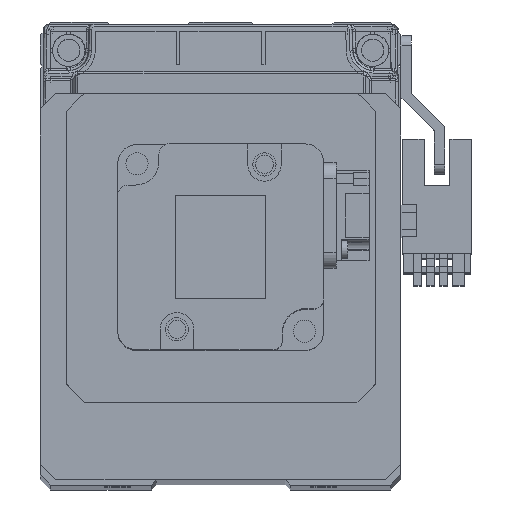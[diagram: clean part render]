
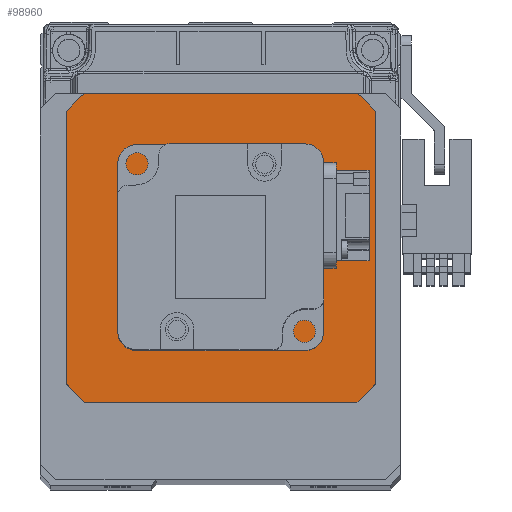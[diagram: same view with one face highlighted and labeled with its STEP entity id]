
A CAD part, top view. The second image highlights one B-rep face of the part: STEP entity #98960.
In plain terms, the highlighted planar face has unit normal (0, 0, 1) as drawn and (0, 0, -1) by its records, which use the part's own axes.
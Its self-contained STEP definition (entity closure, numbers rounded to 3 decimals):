
#90690=CARTESIAN_POINT('',(15.,0.,0.5));
#90700=VERTEX_POINT('',#90690);
#90730=CARTESIAN_POINT('',(0.,0.,0.5));
#90740=DIRECTION('',(0.,0.,-1.));
#90750=DIRECTION('',(-1.,0.,0.));
#90760=AXIS2_PLACEMENT_3D('',#90730,#90740,#90750);
#90770=CIRCLE('',#90760,15.);
#90780=CARTESIAN_POINT('',(-15.,0.,0.5));
#90790=VERTEX_POINT('',#90780);
#90800=EDGE_CURVE('',#90790,#90700,#90770,.T.);
#92430=CARTESIAN_POINT('',(-26.458,30.,0.5));
#92440=VERTEX_POINT('',#92430);
#92470=CARTESIAN_POINT('',(-30.,30.,0.5));
#92480=DIRECTION('',(-1.,-0.,-0.));
#92490=VECTOR('',#92480,1000.);
#92500=LINE('',#92470,#92490);
#92510=CARTESIAN_POINT('',(26.458,30.,0.5));
#92520=VERTEX_POINT('',#92510);
#92530=EDGE_CURVE('',#92520,#92440,#92500,.T.);
#94070=CARTESIAN_POINT('',(30.,26.458,0.5));
#94080=VERTEX_POINT('',#94070);
#94110=CARTESIAN_POINT('',(30.,30.,0.5));
#94120=DIRECTION('',(-0.,1.,-0.));
#94130=VECTOR('',#94120,1000.);
#94140=LINE('',#94110,#94130);
#94150=CARTESIAN_POINT('',(30.,-26.458,0.5));
#94160=VERTEX_POINT('',#94150);
#94170=EDGE_CURVE('',#94160,#94080,#94140,.T.);
#94470=CARTESIAN_POINT('',(26.458,-30.,0.5));
#94480=VERTEX_POINT('',#94470);
#94510=CARTESIAN_POINT('',(-30.,-30.,0.5));
#94520=DIRECTION('',(1.,0.,0.));
#94530=VECTOR('',#94520,1000.);
#94540=LINE('',#94510,#94530);
#94550=CARTESIAN_POINT('',(-26.458,-30.,0.5));
#94560=VERTEX_POINT('',#94550);
#94570=EDGE_CURVE('',#94560,#94480,#94540,.T.);
#95450=CARTESIAN_POINT('',(0.,0.,0.5));
#95460=DIRECTION('',(0.,0.,-1.));
#95470=DIRECTION('',(-1.,0.,0.));
#95480=AXIS2_PLACEMENT_3D('',#95450,#95460,#95470);
#95490=CIRCLE('',#95480,40.);
#95500=EDGE_CURVE('',#94160,#94480,#95490,.T.);
#96330=CARTESIAN_POINT('',(0.,0.,0.5));
#96340=DIRECTION('',(0.,0.,-1.));
#96350=DIRECTION('',(-1.,0.,0.));
#96360=AXIS2_PLACEMENT_3D('',#96330,#96340,#96350);
#96370=CIRCLE('',#96360,40.);
#96380=EDGE_CURVE('',#92520,#94080,#96370,.T.);
#97780=CARTESIAN_POINT('',(-30.,-26.458,0.5));
#97790=VERTEX_POINT('',#97780);
#97820=CARTESIAN_POINT('',(-30.,30.,0.5));
#97830=DIRECTION('',(0.,-1.,0.));
#97840=VECTOR('',#97830,1000.);
#97850=LINE('',#97820,#97840);
#97860=CARTESIAN_POINT('',(-30.,26.458,0.5));
#97870=VERTEX_POINT('',#97860);
#97880=EDGE_CURVE('',#97870,#97790,#97850,.T.);
#98640=CARTESIAN_POINT('',(0.,0.,0.5));
#98650=DIRECTION('',(-0.,0.,1.));
#98660=DIRECTION('',(1.,0.,0.));
#98670=AXIS2_PLACEMENT_3D('',#98640,#98650,#98660);
#98680=PLANE('',#98670);
#98690=ORIENTED_EDGE('',*,*,#90800,.F.);
#98700=EDGE_CURVE('',#90700,#90790,#90770,.T.);
#98710=ORIENTED_EDGE('',*,*,#98700,.F.);
#98720=EDGE_LOOP('',(#98710,#98690));
#98730=FACE_BOUND('',#98720,.T.);
#98740=ORIENTED_EDGE('',*,*,#92530,.F.);
#98750=CARTESIAN_POINT('',(0.,0.,0.5));
#98760=DIRECTION('',(0.,0.,-1.));
#98770=DIRECTION('',(-1.,0.,0.));
#98780=AXIS2_PLACEMENT_3D('',#98750,#98760,#98770);
#98790=CIRCLE('',#98780,40.);
#98800=EDGE_CURVE('',#97870,#92440,#98790,.T.);
#98810=ORIENTED_EDGE('',*,*,#98800,.T.);
#98820=ORIENTED_EDGE('',*,*,#97880,.F.);
#98830=CARTESIAN_POINT('',(0.,0.,0.5));
#98840=DIRECTION('',(0.,0.,-1.));
#98850=DIRECTION('',(-1.,0.,0.));
#98860=AXIS2_PLACEMENT_3D('',#98830,#98840,#98850);
#98870=CIRCLE('',#98860,40.);
#98880=EDGE_CURVE('',#94560,#97790,#98870,.T.);
#98890=ORIENTED_EDGE('',*,*,#98880,.T.);
#98900=ORIENTED_EDGE('',*,*,#94570,.F.);
#98910=ORIENTED_EDGE('',*,*,#95500,.T.);
#98920=ORIENTED_EDGE('',*,*,#94170,.F.);
#98930=ORIENTED_EDGE('',*,*,#96380,.T.);
#98940=EDGE_LOOP('',(#98930,#98920,#98910,#98900,#98890,#98820,#98810,
#98740));
#98950=FACE_OUTER_BOUND('',#98940,.T.);
#98960=ADVANCED_FACE('',(#98730,#98950),#98680,.F.);
